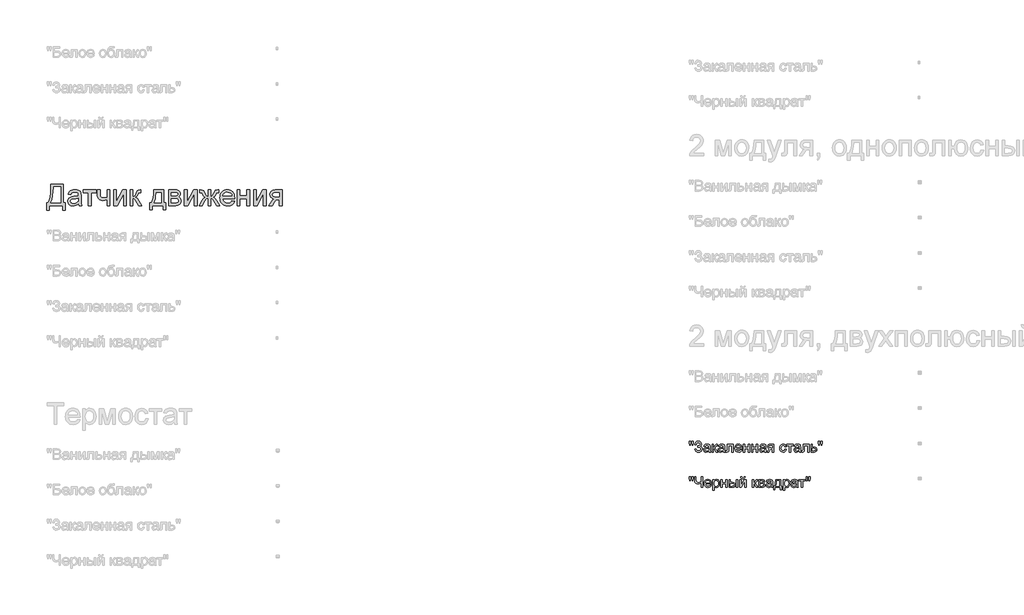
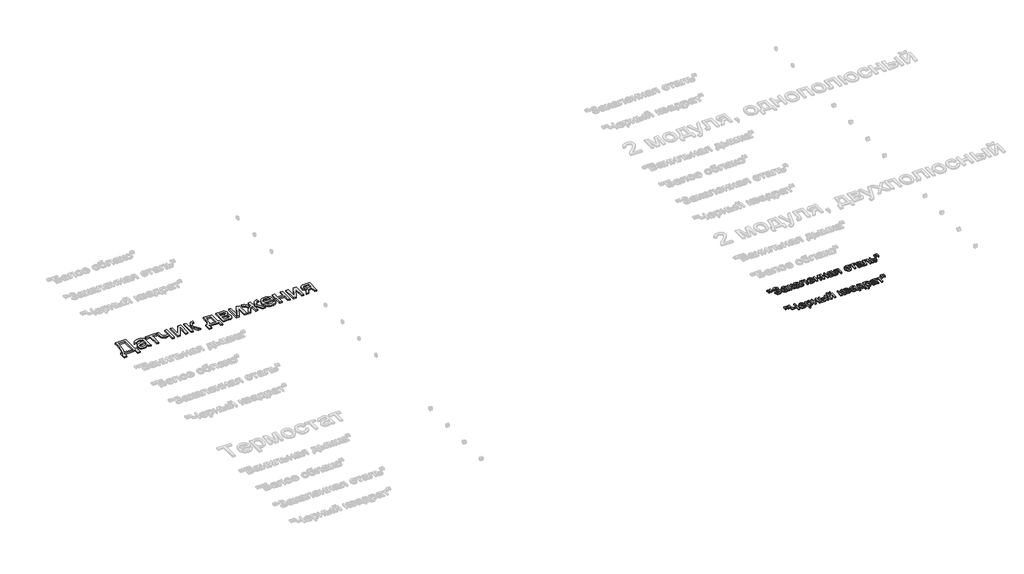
# One storey, part 15 of 168: 3 proxies.
"""IFC4 building model written with IfcOpenShell, lengths in millimetres."""

from ifc_helpers import new_model, si_unit, origin, origin_with_axes, place, context, project, spatial, polyline, outline, extrude, element, save

model = new_model("IFC4")

# Units and contexts
model_context = context("Model", 3, world=origin())
ifc_project = project(units=[si_unit("LENGTHUNIT", "METRE", prefix="MILLI")], contexts=[model_context])

# Site, building, storey
site = spatial("IfcSite", under=ifc_project)
building = spatial("IfcBuilding", under=site)
storey = spatial("IfcBuildingStorey", under=building, Name="Этаж 01", Elevation=0.0)

# Proxies
placement = place(None, origin())
element("IfcBuildingElementProxy", 1, Name="300 мм Arial 2", ObjectType="300 мм Arial 2", at=placement, inside=storey, context=model_context, shape_type="SweptSolid", body=[
    extrude(outline(polyline([(32927.3478389, -49764.4244707), (33106.2856413, -49764.4244707), (33106.2856413, -50028.1222849), (33134.5389786, -50028.1222849), (33134.5389786, -50136.4267443), (33096.8678623, -50136.4267443), (33096.8678623, -50065.7934012), (32903.8033912, -50065.7934012), (32903.8033912, -50136.4267443), (32866.1322749, -50136.4267443), (32866.1322749, -50028.1222849), (32889.6767226, -50028.1222849), (32906.157836, -49993.9506461), (32917.9300598, -49945.8822649), (32924.9933941, -49883.9171413), (32927.3478389, -49808.0552754), (32927.3478389, -49764.4244707)]), holes=[polyline([(33068.614525, -49802.095587), (32965.0189552, -49802.095587), (32965.0189552, -49817.2523252), (32957.3670097, -49920.4800131), (32946.0362442, -49980.1320786), (32927.3478389, -50028.1222849), (33068.614525, -50028.1222849), (33068.614525, -49802.095587)])]), origin_with_axes(), (0.0, 0.0, 1.0), 20.0),
    extrude(outline(polyline([(33318.1856706, -50037.540064), (33300.1870439, -50052.9727137), (33281.6549884, -50063.0710744), (33262.1664397, -50068.6444867), (33241.2983336, -50070.5022907), (33209.8168318, -50066.0325245), (33186.5942809, -50052.6232258), (33172.2744742, -50032.2609573), (33167.5012053, -50006.932282), (33169.3038271, -49991.3156913), (33174.7116924, -49977.1338404), (33183.0534167, -49964.9937345), (33193.6576152, -49955.502379), (33220.0347542, -49943.141544), (33252.629099, -49937.4761613), (33291.1463439, -49931.516473), (33317.9649414, -49924.526715), (33318.1856706, -49916.1390056), (33315.5921025, -49899.3267984), (33307.8113983, -49888.3271267), (33290.4105799, -49880.1601464), (33266.1671564, -49877.4378197), (33243.7263547, -49879.2496385), (33228.0545817, -49884.685095), (33217.3676098, -49894.7374705), (33209.8812112, -49910.4000464), (33172.2100949, -49905.6911569), (33178.7491973, -49885.0897652), (33188.5072673, -49868.9029574), (33202.3948126, -49856.5237282), (33221.3223412, -49847.3450725), (33244.4713158, -49841.6612956), (33271.0231988, -49839.7667034), (33296.4898299, -49841.4405664), (33316.6773544, -49846.4621557), (33331.8984719, -49854.0129336), (33342.4658822, -49863.2743628), (33349.4740343, -49874.7246899), (33354.0173769, -49888.8421615), (33355.8567869, -49921.8043883), (33355.8567869, -49968.6725545), (33357.7697732, -50034.1187614), (33365.2745659, -50065.7934012), (33327.6034496, -50065.7934012), (33318.1856706, -50037.540064)]), holes=[polyline([(33318.1856706, -49962.1978313), (33257.411565, -49973.749326), (33225.0011612, -49979.8561671), (33210.3226696, -49989.788981), (33205.1723216, -50004.2835316), (33207.9774219, -50015.4855383), (33216.3927225, -50024.6641941), (33230.2342826, -50030.7894293), (33249.3181611, -50032.8311744), (33269.5516708, -50030.5778972), (33287.4307358, -50023.8180655), (33301.9252864, -50013.8576605), (33312.005253, -50002.0026632), (33316.4750193, -49989.788981), (33317.9649414, -49972.8664092), (33318.1856706, -49962.1978313)])]), origin_with_axes(), (0.0, 0.0, 1.0), 20.0),
    extrude(outline(polyline([(33388.8190136, -49844.4755929), (33567.7568161, -49844.4755929), (33567.7568161, -49882.1467092), (33497.123473, -49882.1467092), (33497.123473, -50065.7934012), (33459.4523567, -50065.7934012), (33459.4523567, -49882.1467092), (33388.8190136, -49882.1467092), (33388.8190136, -49844.4755929)])), origin_with_axes(), (0.0, 0.0, 1.0), 20.0),
    extrude(outline(polyline([(33586.5923742, -49844.4755929), (33624.2634906, -49844.4755929), (33624.2634906, -49886.9291751), (33627.3169111, -49926.734007), (33632.5132443, -49938.3038958), (33641.9954027, -49948.2918919), (33655.0920017, -49955.1896793), (33671.1316567, -49957.4889418), (33694.1794637, -49954.6378563), (33723.1501709, -49946.0846), (33723.1501709, -49844.4755929), (33760.8212872, -49844.4755929), (33760.8212872, -50065.7934012), (33723.1501709, -50065.7934012), (33723.1501709, -49982.2106119), (33690.9972845, -49991.9226966), (33661.0516901, -49995.1600581), (33638.2705975, -49991.7847408), (33618.3405904, -49981.6587889), (33602.8067732, -49966.6400064), (33593.2142502, -49948.5861975), (33588.2478432, -49928.0399881), (33586.5923742, -49905.5440041), (33586.5923742, -49844.4755929)])), origin_with_axes(), (0.0, 0.0, 1.0), 20.0),
    extrude(outline(polyline([(33817.3279616, -49844.4755929), (33854.9990779, -49844.4755929), (33854.9990779, -50013.2598523), (33947.5581879, -49844.4755929), (33996.2657641, -49844.4755929), (33996.2657641, -50065.7934012), (33958.5946478, -50065.7934012), (33958.5946478, -49898.0392114), (33866.624149, -50065.7934012), (33817.3279616, -50065.7934012), (33817.3279616, -49844.4755929)])), origin_with_axes(), (0.0, 0.0, 1.0), 20.0),
    extrude(outline(polyline([(34052.7724385, -49844.4755929), (34090.4435548, -49844.4755929), (34090.4435548, -49938.6533837), (34105.7658399, -49936.9611265), (34115.6802597, -49931.8843549), (34124.4542453, -49918.6406031), (34136.3552278, -49892.4474051), (34153.535317, -49858.4183205), (34168.6920552, -49847.3450725), (34196.2464167, -49844.4755929), (34203.4569038, -49844.4755929), (34203.4569038, -49882.3674384), (34193.3033607, -49882.1467092), (34174.9092609, -49886.1198347), (34161.9598147, -49910.9150812), (34146.7662883, -49937.7336787), (34125.4659208, -49950.8670659), (34137.4036915, -49956.1691652), (34149.2310977, -49965.5271634), (34172.5548162, -49996.4108569), (34212.8746828, -50065.7934012), (34170.0532186, -50065.7934012), (34130.5426923, -49997.8823849), (34110.6770646, -49969.1508011), (34101.3880442, -49963.9360738), (34090.4435548, -49962.1978313), (34090.4435548, -50065.7934012), (34052.7724385, -50065.7934012), (34052.7724385, -49844.4755929)])), origin_with_axes(), (0.0, 0.0, 1.0), 20.0),
    extrude(outline(polyline([(34387.1035957, -49844.4755929), (34528.3702819, -49844.4755929), (34528.3702819, -50028.1222849), (34556.6236191, -50028.1222849), (34556.6236191, -50127.0089652), (34518.9525028, -50127.0089652), (34518.9525028, -50065.7934012), (34363.5591481, -50065.7934012), (34363.5591481, -50127.0089652), (34325.8880318, -50127.0089652), (34325.8880318, -50028.1222849), (34349.4324794, -50028.1222849), (34366.5481893, -49997.1926061), (34378.5319453, -49956.2749312), (34385.3837474, -49905.3692601), (34387.1035957, -49844.4755929)]), holes=[polyline([(34420.0658225, -49882.1467092), (34416.9756138, -49928.2699143), (34411.2366546, -49967.9735787), (34402.8489451, -50001.2577022), (34391.8124853, -50028.1222849), (34490.6991656, -50028.1222849), (34490.6991656, -49882.1467092), (34420.0658225, -49882.1467092)])]), origin_with_axes(), (0.0, 0.0, 1.0), 20.0),
    extrude(outline(polyline([(34599.003625, -49844.4755929), (34681.9978031, -49844.4755929), (34708.6784448, -49845.7355887), (34727.5048059, -49849.5155762), (34741.355563, -49856.6524869), (34753.1093928, -49867.9832524), (34761.1384173, -49882.7445174), (34763.8147588, -49900.172927), (34762.196078, -49914.2168221), (34757.3400357, -49926.3293368), (34749.2282377, -49936.5656533), (34737.84229, -49944.980954), (34751.7850176, -49952.8076434), (34763.1525712, -49965.3984047), (34770.7125462, -49981.7599564), (34773.2325379, -50000.8990172), (34766.8497853, -50029.612207), (34751.674653, -50049.8273226), (34727.6519587, -50061.8018815), (34694.7265201, -50065.7934012), (34599.003625, -50065.7934012), (34599.003625, -49844.4755929)]), holes=[polyline([(34636.6747413, -50028.1222849), (34682.8807199, -50028.1222849), (34708.0622424, -50026.4208307), (34723.8627741, -50021.316468), (34732.3424541, -50012.0366446), (34735.5614216, -49997.8088085), (34733.9519379, -49988.3818324), (34729.1234867, -49979.6722261), (34721.7106645, -49972.8572122), (34712.3480677, -49969.1140129), (34679.2018999, -49966.9067209), (34636.6747413, -49966.9067209), (34636.6747413, -50028.1222849)]), polyline([(34636.6747413, -49929.2356046), (34673.9043992, -49929.2356046), (34704.6225458, -49927.3226182), (34719.5585548, -49919.6706727), (34724.4973706, -49913.3431024), (34726.1436425, -49905.8383097), (34723.2557688, -49894.5995147), (34714.5921479, -49887.3706335), (34698.938769, -49883.4526903), (34675.0816216, -49882.1467092), (34636.6747413, -49882.1467092), (34636.6747413, -49929.2356046)])]), origin_with_axes(), (0.0, 0.0, 1.0), 20.0),
    extrude(outline(polyline([(34820.3214333, -49844.4755929), (34857.9925496, -49844.4755929), (34857.9925496, -50013.2598523), (34950.5516596, -49844.4755929), (34999.2592357, -49844.4755929), (34999.2592357, -50065.7934012), (34961.5881194, -50065.7934012), (34961.5881194, -49898.0392114), (34869.6176206, -50065.7934012), (34820.3214333, -50065.7934012), (34820.3214333, -49844.4755929)])), origin_with_axes(), (0.0, 0.0, 1.0), 20.0),
    extrude(outline(polyline([(35192.3237068, -49844.4755929), (35192.3237068, -49938.6533837), (35205.6134439, -49936.7128061), (35214.2862619, -49930.8910736), (35235.0715946, -49890.6079951), (35248.039435, -49865.5000489), (35259.8668411, -49851.9803856), (35274.232633, -49846.3517911), (35295.1099362, -49844.4755929), (35310.0459452, -49844.4755929), (35310.0459452, -49882.3674384), (35299.671673, -49882.1467092), (35280.2475036, -49886.0462583), (35266.7830226, -49910.4736228), (35251.1480378, -49937.2554321), (35228.8176007, -49950.8670659), (35241.2106254, -49956.1691652), (35253.4473003, -49965.5271634), (35277.4516005, -49996.4108569), (35319.4637243, -50065.7934012), (35276.2743781, -50065.7934012), (35234.9244418, -49997.3673501), (35223.6212675, -49979.4055117), (35213.8448035, -49968.9300719), (35203.9579749, -49963.8808915), (35192.3237068, -49962.1978313), (35192.3237068, -50065.7934012), (35154.6525905, -50065.7934012), (35154.6525905, -49962.1978313), (35143.1102929, -49963.8441033), (35133.2050702, -49968.7829191), (35123.3550297, -49979.1847825), (35111.978279, -49997.2201973), (35070.6283428, -50065.7934012), (35027.512573, -50065.7934012), (35069.377544, -49996.4108569), (35093.5657852, -49965.5271634), (35105.8668394, -49956.1691652), (35118.3058494, -49950.8670659), (35103.9216634, -49943.6565788), (35094.6142489, -49935.8574805), (35074.3071627, -49897.229871), (35064.3743489, -49884.501154), (35048.1139647, -49881.92598), (35036.930352, -49882.1467092), (35036.930352, -49844.4755929), (35042.5957348, -49844.4755929), (35075.6315379, -49846.8300377), (35092.7748389, -49856.8364279), (35111.978279, -49890.6079951), (35132.5428826, -49930.6335562), (35141.2157006, -49936.6484268), (35154.6525905, -49938.6533837), (35154.6525905, -49844.4755929), (35192.3237068, -49844.4755929)])), origin_with_axes(), (0.0, 0.0, 1.0), 20.0),
    extrude(outline(polyline([(35493.2511788, -49999.8689477), (35530.1865312, -50004.5778372), (35516.8784, -50032.4081101), (35495.6424118, -50053.211837), (35466.9568132, -50066.1796773), (35431.2998509, -50070.5022907), (35407.9255486, -50068.6375889), (35387.0988291, -50063.0434833), (35368.8196925, -50053.719974), (35353.0881387, -50040.6670609), (35340.4375966, -50024.2480276), (35331.4014951, -50004.8261575), (35325.9798342, -49982.4014507), (35324.1726139, -49956.973907), (35325.9982283, -49930.6841399), (35331.4750715, -49907.5121728), (35340.6031435, -49887.4580055), (35353.3824443, -49870.5216382), (35369.0726114, -49857.0663542), (35386.9332822, -49847.4554371), (35406.9644569, -49841.6888868), (35429.1661353, -49839.7667034), (35450.6527431, -49841.6842883), (35470.0838102, -49847.437043), (35487.4593367, -49857.0249675), (35502.7793225, -49870.4480618), (35515.2850111, -49887.3476409), (35524.2176458, -49907.36502), (35529.5772266, -49930.5001989), (35531.3637535, -49956.7531778), (35531.1430243, -49966.9067209), (35361.8437302, -49966.9067209), (35368.3644385, -49995.1048758), (35383.5119797, -50015.8350262), (35405.3733672, -50028.5821374), (35432.0356148, -50032.8311744), (35452.0851836, -50030.8630057), (35468.9709672, -50024.9584997), (35482.6929656, -50014.7497744), (35493.2511788, -49999.8689477)]), holes=[polyline([(35361.8437302, -49929.2356046), (35493.6926372, -49929.2356046), (35488.5974716, -49909.3331886), (35478.6094754, -49895.0961554), (35456.6469203, -49881.8524036), (35429.0189825, -49877.4378197), (35403.6259278, -49880.9602898), (35382.6290629, -49891.5277001), (35368.0333447, -49907.9996164), (35361.8437302, -49929.2356046)])]), origin_with_axes(), (0.0, 0.0, 1.0), 20.0),
    extrude(outline(polyline([(35569.0348699, -49844.4755929), (35606.7059862, -49844.4755929), (35606.7059862, -49929.2356046), (35705.5926665, -49929.2356046), (35705.5926665, -49844.4755929), (35743.2637828, -49844.4755929), (35743.2637828, -50065.7934012), (35705.5926665, -50065.7934012), (35705.5926665, -49966.9067209), (35606.7059862, -49966.9067209), (35606.7059862, -50065.7934012), (35569.0348699, -50065.7934012), (35569.0348699, -49844.4755929)])), origin_with_axes(), (0.0, 0.0, 1.0), 20.0),
    extrude(outline(polyline([(35799.7704572, -49844.4755929), (35837.4415735, -49844.4755929), (35837.4415735, -50013.2598523), (35930.0006835, -49844.4755929), (35978.7082597, -49844.4755929), (35978.7082597, -50065.7934012), (35941.0371434, -50065.7934012), (35941.0371434, -49898.0392114), (35849.0666446, -50065.7934012), (35799.7704572, -50065.7934012), (35799.7704572, -49844.4755929)])), origin_with_axes(), (0.0, 0.0, 1.0), 20.0),
    extrude(outline(polyline([(36204.7349575, -49844.4755929), (36204.7349575, -50065.7934012), (36167.0638412, -50065.7934012), (36167.0638412, -49981.0333895), (36146.5360259, -49981.0333895), (36118.5769942, -49985.8158554), (36107.4117757, -49996.24531), (36092.3102198, -50017.9687418), (36062.291049, -50065.7934012), (36018.7338208, -50065.7934012), (36056.5520899, -50005.3136012), (36073.2539324, -49983.6085635), (36088.6313998, -49973.9700552), (36062.8796602, -49966.0789864), (36044.779866, -49951.0877951), (36034.0745, -49931.148591), (36030.5060446, -49908.4134837), (36035.380481, -49882.6249558), (36050.0037903, -49862.2075051), (36073.8609377, -49848.9085709), (36106.4368884, -49844.4755929), (36204.7349575, -49844.4755929)]), holes=[polyline([(36167.0638412, -49882.1467092), (36117.3997719, -49882.1467092), (36091.7491997, -49884.32641), (36077.1902698, -49890.8655125), (36070.4304381, -49900.3292768), (36068.1771609, -49911.2829632), (36071.4972959, -49925.6395581), (36081.4577009, -49935.5999631), (36099.8609977, -49941.4216957), (36128.5098081, -49943.3622732), (36167.0638412, -49943.3622732), (36167.0638412, -49882.1467092)])]), origin_with_axes(), (0.0, 0.0, 1.0), 20.0),
])
element("IfcBuildingElementProxy", 2, Name="150", ObjectType="150", at=placement, inside=storey, context=model_context, shape_type="SweptSolid", body=[
    extrude(outline(polyline([(41980.1485789, -53464.0640488), (41975.550054, -53434.9645829), (41975.550054, -53409.9118191), (41994.3856121, -53409.9118191), (41994.3856121, -53434.9645829), (41990.2653338, -53464.0640488), (41980.1485789, -53464.0640488)])), origin_with_axes(), (0.0, 0.0, 1.0), 20.0),
    extrude(outline(polyline([(42017.7093306, -53464.0640488), (42013.2211703, -53434.9645829), (42013.2211703, -53409.9118191), (42032.0567284, -53409.9118191), (42032.0567284, -53434.9645829), (42027.6421445, -53464.0640488), (42017.7093306, -53464.0640488)])), origin_with_axes(), (0.0, 0.0, 1.0), 20.0),
    extrude(outline(polyline([(42050.8922866, -53518.2162785), (42069.7278447, -53513.5073889), (42081.2977335, -53533.9064456), (42092.2284273, -53541.5629896), (42106.2217387, -53544.1151709), (42120.398991, -53542.197586), (42131.2193202, -53536.4448313), (42138.0757209, -53527.9789469), (42140.3611878, -53517.9219729), (42137.8641888, -53507.3867522), (42130.3731916, -53499.2519616), (42118.5779752, -53494.0510299), (42103.1683181, -53492.317386), (42093.2722924, -53492.317386), (42093.2722924, -53473.4818278), (42114.591054, -53471.9551176), (42127.6324708, -53464.1560193), (42133.2978535, -53449.900592), (42131.4124583, -53441.0300373), (42125.7562726, -53433.4010845), (42116.8811195, -53428.1449705), (42105.3388219, -53426.3929325), (42086.1169876, -53431.7824037), (42075.117316, -53446.0746192), (42072.0822895, -53459.3551592), (42053.2467313, -53454.6462697), (42059.0983543, -53434.044878), (42069.7002536, -53419.3295982), (42085.0524291, -53410.5004303), (42105.1548809, -53407.5573743), (42124.5468605, -53410.6153934), (42139.4598769, -53419.7894506), (42148.965028, -53433.0561951), (42152.1334117, -53448.3922758), (42147.2037929, -53467.0346959), (42132.4149367, -53480.9498323), (42142.8903765, -53485.773685), (42151.5080123, -53493.9176727), (42157.2745625, -53504.6828196), (42159.196746, -53517.3701499), (42155.508729, -53535.2078281), (42144.444678, -53549.8725241), (42127.2921799, -53559.6811778), (42105.3388219, -53562.9507291), (42086.2365493, -53560.1548259), (42070.7947025, -53551.7671164), (42059.0132816, -53537.7876006), (42050.8922866, -53518.2162785)])), origin_with_axes(), (0.0, 0.0, 1.0), 20.0),
    extrude(outline(polyline([(42253.3745367, -53546.4696157), (42235.1091957, -53559.2351209), (42214.9308682, -53562.9507291), (42199.1901174, -53560.7158459), (42187.5788419, -53554.0111966), (42180.4189386, -53543.8300624), (42178.0323041, -53531.1657247), (42181.6375477, -53516.2665039), (42191.110509, -53505.4507732), (42204.2990786, -53499.2703557), (42220.596251, -53496.4376643), (42253.2641721, -53489.9629412), (42253.3745367, -53485.7690865), (42252.0777527, -53477.3629829), (42248.1874006, -53471.8631471), (42239.4869914, -53467.7796569), (42227.3652797, -53466.4184935), (42208.3089923, -53470.0421312), (42199.222307, -53482.8996069), (42180.3867489, -53480.5451621), (42188.5353351, -53462.1510624), (42204.9428721, -53451.3721199), (42229.7933008, -53447.5829354), (42252.6203786, -53450.9306615), (42265.5146426, -53459.3367651), (42271.2903899, -53472.1206645), (42272.2100949, -53488.6017778), (42272.2100949, -53512.0358609), (42273.1665881, -53544.7589644), (42276.9189844, -53560.5962843), (42258.0834263, -53560.5962843), (42253.3745367, -53546.4696157)]), holes=[polyline([(42253.3745367, -53508.7984994), (42222.9874839, -53514.5742467), (42206.782282, -53517.6276673), (42199.4430362, -53522.5940742), (42196.8678623, -53529.8413495), (42202.4780627, -53540.0316808), (42218.940782, -53544.1151709), (42237.9970693, -53539.6086165), (42250.284328, -53528.7009153), (42253.2641721, -53514.1327883), (42253.3745367, -53508.7984994)])]), origin_with_axes(), (0.0, 0.0, 1.0), 20.0),
    extrude(outline(polyline([(42298.1089873, -53449.9373802), (42316.9445455, -53449.9373802), (42316.9445455, -53497.0262755), (42329.5628979, -53493.6417612), (42339.900382, -53473.9232862), (42348.4904266, -53456.908744), (42356.0687957, -53451.3721199), (42369.8459764, -53449.9373802), (42373.4512199, -53449.9373802), (42373.4512199, -53468.8833029), (42368.3744484, -53468.7729383), (42359.1773985, -53470.7595011), (42352.7026754, -53483.1571243), (42345.1059122, -53496.566423), (42334.4557285, -53503.1331167), (42346.3383169, -53510.4631654), (42358.0001762, -53525.9050122), (42378.1601095, -53560.5962843), (42356.7493774, -53560.5962843), (42336.9941142, -53526.6407761), (42327.0613004, -53512.2749842), (42316.9445455, -53508.7984994), (42316.9445455, -53560.5962843), (42298.1089873, -53560.5962843), (42298.1089873, -53449.9373802)])), origin_with_axes(), (0.0, 0.0, 1.0), 20.0),
    extrude(outline(polyline([(42460.5656764, -53546.4696157), (42442.3003353, -53559.2351209), (42422.1220079, -53562.9507291), (42406.381257, -53560.7158459), (42394.7699816, -53554.0111966), (42387.6100782, -53543.8300624), (42385.2234438, -53531.1657247), (42388.8286873, -53516.2665039), (42398.3016487, -53505.4507732), (42411.4902183, -53499.2703557), (42427.7873906, -53496.4376643), (42460.4553118, -53489.9629412), (42460.5656764, -53485.7690865), (42459.2688924, -53477.3629829), (42455.3785403, -53471.8631471), (42446.6781311, -53467.7796569), (42434.5564193, -53466.4184935), (42415.500132, -53470.0421312), (42406.4134467, -53482.8996069), (42387.5778886, -53480.5451621), (42395.7264748, -53462.1510624), (42412.1340117, -53451.3721199), (42436.9844405, -53447.5829354), (42459.8115183, -53450.9306615), (42472.7057822, -53459.3367651), (42478.4815296, -53472.1206645), (42479.4012346, -53488.6017778), (42479.4012346, -53512.0358609), (42480.3577277, -53544.7589644), (42484.1101241, -53560.5962843), (42465.2745659, -53560.5962843), (42460.5656764, -53546.4696157)]), holes=[polyline([(42460.5656764, -53508.7984994), (42430.1786236, -53514.5742467), (42413.9734217, -53517.6276673), (42406.6341759, -53522.5940742), (42404.0590019, -53529.8413495), (42409.6692024, -53540.0316808), (42426.1319217, -53544.1151709), (42445.188209, -53539.6086165), (42457.4754676, -53528.7009153), (42460.4553118, -53514.1327883), (42460.5656764, -53508.7984994)])]), origin_with_axes(), (0.0, 0.0, 1.0), 20.0),
    extrude(outline(polyline([(42514.7179061, -53449.9373802), (42599.4779178, -53449.9373802), (42599.4779178, -53560.4859197), (42580.6423596, -53560.4859197), (42580.6423596, -53468.7729383), (42533.5534643, -53468.7729383), (42533.5534643, -53521.5640046), (42532.2842714, -53545.9177927), (42525.3129076, -53556.2000945), (42508.8317942, -53560.5962843), (42493.5279032, -53559.6397911), (42493.5279032, -53541.7607261), (42501.9524009, -53541.7607261), (42510.4688691, -53540.6018979), (42513.8717775, -53536.9230779), (42514.7179061, -53520.4971468), (42514.7179061, -53449.9373802)])), origin_with_axes(), (0.0, 0.0, 1.0), 20.0),
    extrude(outline(polyline([(42705.2072032, -53527.6340575), (42723.6748794, -53529.9885023), (42717.0208138, -53543.9036388), (42706.4028197, -53554.3055022), (42692.0600204, -53560.7894223), (42674.2315392, -53562.9507291), (42652.1310283, -53559.2213253), (42635.1256831, -53548.0331142), (42624.2823613, -53530.1126625), (42620.6679207, -53506.1865372), (42624.3191495, -53481.4556701), (42635.2728359, -53462.9604028), (42652.0482549, -53451.4273022), (42673.1646814, -53447.5829354), (42693.6235189, -53451.4181052), (42709.971275, -53462.9236146), (42720.6904367, -53481.3820937), (42724.2634906, -53506.0761726), (42724.153126, -53511.1529441), (42639.5034789, -53511.1529441), (42642.763833, -53525.2520216), (42650.3376036, -53535.6170968), (42661.2682974, -53541.9906524), (42674.5994212, -53544.1151709), (42693.0670974, -53540.1788336), (42705.2072032, -53527.6340575)]), holes=[polyline([(42639.5034789, -53492.317386), (42705.4279324, -53492.317386), (42702.8803496, -53482.366178), (42697.8863515, -53475.2476614), (42686.9050739, -53468.6257855), (42673.091105, -53466.4184935), (42660.3945777, -53468.1797286), (42649.8961452, -53473.4634337), (42642.5982861, -53481.6993919), (42639.5034789, -53492.317386)])]), origin_with_axes(), (0.0, 0.0, 1.0), 20.0),
    extrude(outline(polyline([(42743.0990487, -53449.9373802), (42761.9346069, -53449.9373802), (42761.9346069, -53492.317386), (42811.377947, -53492.317386), (42811.377947, -53449.9373802), (42830.2135052, -53449.9373802), (42830.2135052, -53560.5962843), (42811.377947, -53560.5962843), (42811.377947, -53511.1529441), (42761.9346069, -53511.1529441), (42761.9346069, -53560.5962843), (42743.0990487, -53560.5962843), (42743.0990487, -53449.9373802)])), origin_with_axes(), (0.0, 0.0, 1.0), 20.0),
    extrude(outline(polyline([(42858.4668424, -53449.9373802), (42877.3024005, -53449.9373802), (42877.3024005, -53492.317386), (42926.7457407, -53492.317386), (42926.7457407, -53449.9373802), (42945.5812988, -53449.9373802), (42945.5812988, -53560.5962843), (42926.7457407, -53560.5962843), (42926.7457407, -53511.1529441), (42877.3024005, -53511.1529441), (42877.3024005, -53560.5962843), (42858.4668424, -53560.5962843), (42858.4668424, -53449.9373802)])), origin_with_axes(), (0.0, 0.0, 1.0), 20.0),
    extrude(outline(polyline([(43044.4679792, -53546.4696157), (43026.2026381, -53559.2351209), (43006.0243107, -53562.9507291), (42990.2835598, -53560.7158459), (42978.6722843, -53554.0111966), (42971.512381, -53543.8300624), (42969.1257465, -53531.1657247), (42972.7309901, -53516.2665039), (42982.2039515, -53505.4507732), (42995.392521, -53499.2703557), (43011.6896934, -53496.4376643), (43044.3576146, -53489.9629412), (43044.4679792, -53485.7690865), (43043.1711951, -53477.3629829), (43039.280843, -53471.8631471), (43030.5804338, -53467.7796569), (43018.4587221, -53466.4184935), (42999.4024347, -53470.0421312), (42990.3157495, -53482.8996069), (42971.4801913, -53480.5451621), (42979.6287775, -53462.1510624), (42996.0363145, -53451.3721199), (43020.8867433, -53447.5829354), (43043.7138211, -53450.9306615), (43056.608085, -53459.3367651), (43062.3838323, -53472.1206645), (43063.3035373, -53488.6017778), (43063.3035373, -53512.0358609), (43064.2600305, -53544.7589644), (43068.0124268, -53560.5962843), (43049.1768687, -53560.5962843), (43044.4679792, -53546.4696157)]), holes=[polyline([(43044.4679792, -53508.7984994), (43014.0809264, -53514.5742467), (42997.8757245, -53517.6276673), (42990.5364787, -53522.5940742), (42987.9613047, -53529.8413495), (42993.5715051, -53540.0316808), (43010.0342244, -53544.1151709), (43029.0905118, -53539.6086165), (43041.3777704, -53528.7009153), (43044.3576146, -53514.1327883), (43044.4679792, -53508.7984994)])]), origin_with_axes(), (0.0, 0.0, 1.0), 20.0),
    extrude(outline(polyline([(43173.9624415, -53449.9373802), (43173.9624415, -53560.5962843), (43155.1268833, -53560.5962843), (43155.1268833, -53518.2162785), (43144.8629756, -53518.2162785), (43130.8834598, -53520.6075114), (43117.7500726, -53536.6839546), (43102.7404872, -53560.5962843), (43080.9618731, -53560.5962843), (43099.8710076, -53530.3563843), (43108.2219289, -53519.5038654), (43115.9106626, -53514.6846113), (43103.0347928, -53510.7390769), (43093.9848957, -53503.2434813), (43088.6322127, -53493.2738792), (43086.847985, -53481.9063255), (43089.2852032, -53469.0120616), (43096.5968579, -53458.8033362), (43108.5254316, -53452.1538692), (43124.8134069, -53449.9373802), (43173.9624415, -53449.9373802)]), holes=[polyline([(43155.1268833, -53468.7729383), (43130.2948486, -53468.7729383), (43117.4695626, -53469.8627887), (43110.1900976, -53473.1323399), (43105.6835431, -53483.3410653), (43107.3436107, -53490.5193627), (43112.3238132, -53495.4995653), (43135.8498668, -53499.3807203), (43155.1268833, -53499.3807203), (43155.1268833, -53468.7729383)])]), origin_with_axes(), (0.0, 0.0, 1.0), 20.0),
    extrude(outline(polyline([(43331.710241, -53520.5707232), (43350.5457991, -53522.925168), (43345.2942837, -53539.6775943), (43335.4258491, -53552.3373335), (43321.8693976, -53560.2973802), (43305.5538311, -53562.9507291), (43285.518058, -53559.2489165), (43269.8508835, -53548.1434788), (43259.7387272, -53530.1218595), (43256.3680084, -53505.6715024), (43257.8073467, -53488.909879), (43262.1253616, -53474.3831387), (43269.391031, -53462.6523016), (43279.6733328, -53454.2783877), (43291.974387, -53449.2567985), (43305.2963137, -53447.5829354), (43321.2118085, -53449.8821979), (43333.9359271, -53456.7799853), (43343.0639991, -53467.9084156), (43348.1913544, -53482.8996069), (43329.3557962, -53485.2540517), (43320.6185988, -53471.1457772), (43305.4434665, -53466.4184935), (43293.271171, -53468.7453472), (43283.6096701, -53475.725908), (43277.3050924, -53487.7372552), (43275.2035665, -53505.1564676), (43277.2591072, -53522.8102049), (43283.4257291, -53534.8629387), (43292.9124861, -53541.8021129), (43304.9284317, -53544.1151709), (43314.6819031, -53542.6712341), (43322.678738, -53538.3394236), (43328.4958721, -53531.0093748), (43331.710241, -53520.5707232)])), origin_with_axes(), (0.0, 0.0, 1.0), 20.0),
    extrude(outline(polyline([(43357.6091334, -53449.9373802), (43447.0780347, -53449.9373802), (43447.0780347, -53468.7729383), (43411.7613631, -53468.7729383), (43411.7613631, -53560.5962843), (43392.925805, -53560.5962843), (43392.925805, -53468.7729383), (43357.6091334, -53468.7729383), (43357.6091334, -53449.9373802)])), origin_with_axes(), (0.0, 0.0, 1.0), 20.0),
    extrude(outline(polyline([(43534.1924911, -53546.4696157), (43515.9271501, -53559.2351209), (43495.7488226, -53562.9507291), (43480.0080718, -53560.7158459), (43468.3967963, -53554.0111966), (43461.236893, -53543.8300624), (43458.8502585, -53531.1657247), (43462.4555021, -53516.2665039), (43471.9284634, -53505.4507732), (43485.117033, -53499.2703557), (43501.4142054, -53496.4376643), (43534.0821265, -53489.9629412), (43534.1924911, -53485.7690865), (43532.8957071, -53477.3629829), (43529.005355, -53471.8631471), (43520.3049458, -53467.7796569), (43508.1832341, -53466.4184935), (43489.1269467, -53470.0421312), (43480.0402614, -53482.8996069), (43461.2047033, -53480.5451621), (43469.3532895, -53462.1510624), (43485.7608265, -53451.3721199), (43510.6112552, -53447.5829354), (43533.438333, -53450.9306615), (43546.332597, -53459.3367651), (43552.1083443, -53472.1206645), (43553.0280493, -53488.6017778), (43553.0280493, -53512.0358609), (43553.9845425, -53544.7589644), (43557.7369388, -53560.5962843), (43538.9013807, -53560.5962843), (43534.1924911, -53546.4696157)]), holes=[polyline([(43534.1924911, -53508.7984994), (43503.8054383, -53514.5742467), (43487.6002364, -53517.6276673), (43480.2609906, -53522.5940742), (43477.6858167, -53529.8413495), (43483.2960171, -53540.0316808), (43499.7587364, -53544.1151709), (43518.8150237, -53539.6086165), (43531.1022824, -53528.7009153), (43534.0821265, -53514.1327883), (43534.1924911, -53508.7984994)])]), origin_with_axes(), (0.0, 0.0, 1.0), 20.0),
    extrude(outline(polyline([(43588.3447208, -53449.9373802), (43673.1047325, -53449.9373802), (43673.1047325, -53560.4859197), (43654.2691744, -53560.4859197), (43654.2691744, -53468.7729383), (43607.180279, -53468.7729383), (43607.180279, -53521.5640046), (43605.9110861, -53545.9177927), (43598.9397223, -53556.2000945), (43582.4586089, -53560.5962843), (43567.1547179, -53559.6397911), (43567.1547179, -53541.7607261), (43575.5792156, -53541.7607261), (43584.0956838, -53540.6018979), (43587.4985922, -53536.9230779), (43588.3447208, -53520.4971468), (43588.3447208, -53449.9373802)])), origin_with_axes(), (0.0, 0.0, 1.0), 20.0),
    extrude(outline(polyline([(43701.3580697, -53449.9373802), (43720.1936279, -53449.9373802), (43720.1936279, -53489.9629412), (43741.8986656, -53489.9629412), (43760.7158297, -53492.3219845), (43774.6401632, -53499.3991144), (43783.2486019, -53510.6241138), (43786.1180814, -53525.4267656), (43783.6762647, -53538.9050422), (43776.3508145, -53550.2771943), (43763.6542871, -53558.0165118), (43745.099239, -53560.5962843), (43701.3580697, -53560.5962843), (43701.3580697, -53449.9373802)]), holes=[polyline([(43720.1936279, -53541.7607261), (43737.7783873, -53541.7607261), (43760.4951005, -53537.8059947), (43765.5856676, -53532.7430187), (43767.2825233, -53525.4635538), (43762.260934, -53513.8752709), (43754.1905228, -53510.0676923), (43740.0224674, -53508.7984994), (43720.1936279, -53508.7984994), (43720.1936279, -53541.7607261)])]), origin_with_axes(), (0.0, 0.0, 1.0), 20.0),
    extrude(outline(polyline([(43809.5521645, -53464.0640488), (43804.9536396, -53434.9645829), (43804.9536396, -53409.9118191), (43823.7891977, -53409.9118191), (43823.7891977, -53434.9645829), (43819.6689194, -53464.0640488), (43809.5521645, -53464.0640488)])), origin_with_axes(), (0.0, 0.0, 1.0), 20.0),
    extrude(outline(polyline([(43847.1129162, -53464.0640488), (43842.6247559, -53434.9645829), (43842.6247559, -53409.9118191), (43861.460314, -53409.9118191), (43861.460314, -53434.9645829), (43857.0457301, -53464.0640488), (43847.1129162, -53464.0640488)])), origin_with_axes(), (0.0, 0.0, 1.0), 20.0),
])
element("IfcBuildingElementProxy", 3, Name="150", ObjectType="150", at=placement, inside=storey, context=model_context, shape_type="SweptSolid", body=[
    extrude(outline(polyline([(41980.1485789, -53964.0640488), (41975.550054, -53934.9645829), (41975.550054, -53909.9118191), (41994.3856121, -53909.9118191), (41994.3856121, -53934.9645829), (41990.2653338, -53964.0640488), (41980.1485789, -53964.0640488)])), origin_with_axes(), (0.0, 0.0, 1.0), 20.0),
    extrude(outline(polyline([(42017.7093306, -53964.0640488), (42013.2211703, -53934.9645829), (42013.2211703, -53909.9118191), (42032.0567284, -53909.9118191), (42032.0567284, -53934.9645829), (42027.6421445, -53964.0640488), (42017.7093306, -53964.0640488)])), origin_with_axes(), (0.0, 0.0, 1.0), 20.0),
    extrude(outline(polyline([(42163.9056355, -54060.5962843), (42145.0700773, -54060.5962843), (42145.0700773, -54000.2636371), (42120.0908899, -54008.4306174), (42098.4226404, -54011.1529441), (42083.7395502, -54009.2905415), (42070.886673, -54003.7033337), (42060.926268, -53995.2512449), (42054.9205944, -53984.7941992), (42050.8922866, -53954.7934225), (42050.8922866, -53909.9118191), (42069.7278447, -53909.9118191), (42069.7278447, -53952.2550367), (42071.990319, -53972.6219037), (42078.7777418, -53984.57347), (42088.7381468, -53990.381407), (42100.5195677, -53992.317386), (42122.2521966, -53989.9813353), (42145.0700773, -53982.9731833), (42145.0700773, -53909.9118191), (42163.9056355, -53909.9118191), (42163.9056355, -54060.5962843)])), origin_with_axes(), (0.0, 0.0, 1.0), 20.0),
    extrude(outline(polyline([(42271.9893657, -54027.6340575), (42290.4570418, -54029.9885023), (42283.8029762, -54043.9036388), (42273.1849822, -54054.3055022), (42258.8421829, -54060.7894223), (42241.0137017, -54062.9507291), (42218.9131908, -54059.2213253), (42201.9078456, -54048.0331142), (42191.0645238, -54030.1126625), (42187.4500832, -54006.1865372), (42191.101312, -53981.4556701), (42202.0549984, -53962.9604028), (42218.8304174, -53951.4273022), (42239.9468439, -53947.5829354), (42260.4056814, -53951.4181052), (42276.7534375, -53962.9236146), (42287.4725992, -53981.3820937), (42291.045653, -54006.0761726), (42290.9352884, -54011.1529441), (42206.2856413, -54011.1529441), (42209.5459955, -54025.2520216), (42217.1197661, -54035.6170968), (42228.0504599, -54041.9906524), (42241.3815837, -54044.1151709), (42259.8492598, -54040.1788336), (42271.9893657, -54027.6340575)]), holes=[polyline([(42206.2856413, -53992.317386), (42272.2100949, -53992.317386), (42269.6625121, -53982.366178), (42264.668514, -53975.2476614), (42253.6872364, -53968.6257855), (42239.8732675, -53966.4184935), (42227.1767401, -53968.1797286), (42216.6783077, -53973.4634337), (42209.3804486, -53981.6993919), (42206.2856413, -53992.317386)])]), origin_with_axes(), (0.0, 0.0, 1.0), 20.0),
    extrude(outline(polyline([(42309.8812112, -54102.9762901), (42309.8812112, -53949.9373802), (42328.7167693, -53949.9373802), (42328.7167693, -53968.4050563), (42341.739792, -53952.7884656), (42359.3245513, -53947.5829354), (42372.0624654, -53949.4039513), (42383.2000928, -53954.8669989), (42392.268384, -53963.6409845), (42398.7982894, -53975.3948142), (42404.0590019, -54004.4207036), (42402.5736784, -54020.5293365), (42398.1177077, -54034.9365151), (42390.8336442, -54046.9110741), (42380.8640422, -54055.7218479), (42369.2527667, -54061.1435088), (42357.043683, -54062.9507291), (42340.6545401, -54058.1130808), (42328.7167693, -54045.8810045), (42328.7167693, -54102.9762901), (42309.8812112, -54102.9762901)]), holes=[polyline([(42328.7167693, -54006.149749), (42330.7539159, -54023.0355326), (42336.8653555, -54034.8445446), (42345.8830629, -54041.7975143), (42356.6390128, -54044.1151709), (42367.5697066, -54041.7147409), (42376.8173402, -54034.5134508), (42383.1219179, -54022.2721775), (42385.2234438, -54004.7517974), (42383.1725017, -53987.9579844), (42377.0196753, -53975.9834254), (42368.0157635, -53968.8097265), (42357.411565, -53966.4184935), (42346.7659797, -53968.9614778), (42337.4171785, -53976.5904307), (42330.8918716, -53989.0662289), (42328.7167693, -54006.149749)])]), origin_with_axes(), (0.0, 0.0, 1.0), 20.0),
    extrude(outline(polyline([(42425.2490049, -53949.9373802), (42444.084563, -53949.9373802), (42444.084563, -53992.317386), (42493.5279032, -53992.317386), (42493.5279032, -53949.9373802), (42512.3634613, -53949.9373802), (42512.3634613, -54060.5962843), (42493.5279032, -54060.5962843), (42493.5279032, -54011.1529441), (42444.084563, -54011.1529441), (42444.084563, -54060.5962843), (42425.2490049, -54060.5962843), (42425.2490049, -53949.9373802)])), origin_with_axes(), (0.0, 0.0, 1.0), 20.0),
    extrude(outline(polyline([(42644.2123684, -53949.9373802), (42663.0479266, -53949.9373802), (42663.0479266, -54060.5962843), (42644.2123684, -54060.5962843), (42644.2123684, -53949.9373802)])), origin_with_axes(), (0.0, 0.0, 1.0), 20.0),
    extrude(outline(polyline([(42540.6167986, -53949.9373802), (42559.4523567, -53949.9373802), (42559.4523567, -53989.9629412), (42582.739287, -53989.9629412), (42602.8670307, -53992.3219845), (42617.780047, -53999.3991144), (42627.0092866, -54010.6241138), (42630.0856998, -54025.4267656), (42627.5059273, -54038.9050422), (42619.7666098, -54050.2771943), (42606.3619096, -54058.0165118), (42586.785989, -54060.5962843), (42540.6167986, -54060.5962843), (42540.6167986, -53949.9373802)]), holes=[polyline([(42559.4523567, -54041.7607261), (42578.8029497, -54041.7607261), (42603.7821371, -54037.8059947), (42609.3831405, -54032.7430187), (42611.2501416, -54025.4635538), (42605.7135176, -54013.8752709), (42596.8337659, -54010.0676923), (42581.267759, -54008.7984994), (42559.4523567, -54008.7984994), (42559.4523567, -54041.7607261)])]), origin_with_axes(), (0.0, 0.0, 1.0), 20.0),
    extrude(outline(polyline([(42691.3012638, -53949.9373802), (42710.1368219, -53949.9373802), (42710.1368219, -54034.3295098), (42756.4163769, -53949.9373802), (42780.770165, -53949.9373802), (42780.770165, -54060.5962843), (42761.9346069, -54060.5962843), (42761.9346069, -53976.7191894), (42715.9493575, -54060.5962843), (42691.3012638, -54060.5962843), (42691.3012638, -53949.9373802)])), origin_with_axes(), (0.0, 0.0, 1.0), 20.0),
    extrude(outline(polyline([(42752.5168278, -53909.9118191), (42766.6434964, -53909.9118191), (42763.6038714, -53921.97375), (42757.5016288, -53930.8626987), (42748.6126801, -53936.3395419), (42737.2129368, -53938.1651563), (42724.8429047, -53936.3533375), (42715.2503817, -53930.917881), (42708.6928851, -53922.0427279), (42705.4279324, -53909.9118191), (42719.554601, -53909.9118191), (42724.8521017, -53920.5252146), (42735.5206796, -53924.0384877), (42747.219327, -53920.6355792), (42752.5168278, -53909.9118191)])), origin_with_axes(), (0.0, 0.0, 1.0), 20.0),
    extrude(outline(polyline([(42867.8846215, -53949.9373802), (42886.7201796, -53949.9373802), (42886.7201796, -53997.0262755), (42899.3385321, -53993.6417612), (42909.6760161, -53973.9232862), (42918.2660607, -53956.908744), (42925.8444298, -53951.3721199), (42939.6216105, -53949.9373802), (42943.2268541, -53949.9373802), (42943.2268541, -53968.8833029), (42938.1500825, -53968.7729383), (42928.9530327, -53970.7595011), (42922.4783096, -53983.1571243), (42914.8815464, -53996.566423), (42904.2313626, -54003.1331167), (42916.113951, -54010.4631654), (42927.7758103, -54025.9050122), (42947.9357436, -54060.5962843), (42926.5250115, -54060.5962843), (42906.7697484, -54026.6407761), (42896.8369345, -54012.2749842), (42886.7201796, -54008.7984994), (42886.7201796, -54060.5962843), (42867.8846215, -54060.5962843), (42867.8846215, -53949.9373802)])), origin_with_axes(), (0.0, 0.0, 1.0), 20.0),
    extrude(outline(polyline([(42959.7079675, -53949.9373802), (43001.2050565, -53949.9373802), (43023.9585579, -53952.4573718), (43036.7608514, -53961.6912099), (43042.1135344, -53977.7860472), (43038.8761728, -53990.8642521), (43029.1273, -54000.1900607), (43041.7824406, -54010.3987861), (43046.8224239, -54028.1490923), (43043.6310476, -54042.5056872), (43036.0434815, -54052.613245), (43024.0321343, -54058.6005245), (43007.569415, -54060.5962843), (42959.7079675, -54060.5962843), (42959.7079675, -53949.9373802)]), holes=[polyline([(42978.5435256, -53992.317386), (42997.1583546, -53992.317386), (43012.5174279, -53991.3608928), (43019.9854324, -53987.5349201), (43023.2779762, -53980.6187385), (43021.8340394, -53974.9993411), (43017.5022289, -53971.3849005), (42997.7469658, -53968.7729383), (42978.5435256, -53968.7729383), (42978.5435256, -53992.317386)]), polyline([(42978.5435256, -54041.7607261), (43001.6465149, -54041.7607261), (43022.137542, -54038.3578177), (43026.377382, -54033.717906), (43027.9868658, -54026.6039879), (43024.7678983, -54017.5356968), (43016.3801888, -54012.2565901), (42999.8071049, -54011.1529441), (42978.5435256, -54011.1529441), (42978.5435256, -54041.7607261)])]), origin_with_axes(), (0.0, 0.0, 1.0), 20.0),
    extrude(outline(polyline([(43141.0002147, -54046.4696157), (43122.7348736, -54059.2351209), (43102.5565462, -54062.9507291), (43086.8157953, -54060.7158459), (43075.2045198, -54054.0111966), (43068.0446165, -54043.8300624), (43065.6579821, -54031.1657247), (43069.2632256, -54016.2665039), (43078.736187, -54005.4507732), (43091.9247565, -53999.2703557), (43108.2219289, -53996.4376643), (43140.8898501, -53989.9629412), (43141.0002147, -53985.7690865), (43139.7034307, -53977.3629829), (43135.8130786, -53971.8631471), (43127.1126694, -53967.7796569), (43114.9909576, -53966.4184935), (43095.9346703, -53970.0421312), (43086.847985, -53982.8996069), (43068.0124268, -53980.5451621), (43076.161013, -53962.1510624), (43092.56855, -53951.3721199), (43117.4189788, -53947.5829354), (43140.2460566, -53950.9306615), (43153.1403205, -53959.3367651), (43158.9160679, -53972.1206645), (43159.8357728, -53988.6017778), (43159.8357728, -54012.0358609), (43160.792266, -54044.7589644), (43164.5446624, -54060.5962843), (43145.7091042, -54060.5962843), (43141.0002147, -54046.4696157)]), holes=[polyline([(43141.0002147, -54008.7984994), (43110.6131619, -54014.5742467), (43094.40796, -54017.6276673), (43087.0687142, -54022.5940742), (43084.4935402, -54029.8413495), (43090.1037407, -54040.0316808), (43106.5664599, -54044.1151709), (43125.6227473, -54039.6086165), (43137.9100059, -54028.7009153), (43140.8898501, -54014.1327883), (43141.0002147, -54008.7984994)])]), origin_with_axes(), (0.0, 0.0, 1.0), 20.0),
    extrude(outline(polyline([(43202.2157787, -53949.9373802), (43272.8491218, -53949.9373802), (43272.8491218, -54041.7607261), (43286.9757904, -54041.7607261), (43286.9757904, -54091.2040663), (43268.1402322, -54091.2040663), (43268.1402322, -54060.5962843), (43190.4435548, -54060.5962843), (43190.4435548, -54091.2040663), (43171.6079967, -54091.2040663), (43171.6079967, -54041.7607261), (43183.3802205, -54041.7607261), (43191.9380754, -54026.2958868), (43197.9299534, -54005.8370493), (43202.2157787, -53949.9373802)]), holes=[polyline([(43218.6968921, -53968.7729383), (43214.2823081, -54011.686373), (43204.5702235, -54041.7607261), (43254.0135636, -54041.7607261), (43254.0135636, -53968.7729383), (43218.6968921, -53968.7729383)])]), origin_with_axes(), (0.0, 0.0, 1.0), 20.0),
    extrude(outline(polyline([(43308.1657933, -54102.9762901), (43308.1657933, -53949.9373802), (43327.0013514, -53949.9373802), (43327.0013514, -53968.4050563), (43340.0243741, -53952.7884656), (43357.6091334, -53947.5829354), (43370.3470475, -53949.4039513), (43381.4846749, -53954.8669989), (43390.5529661, -53963.6409845), (43397.0828715, -53975.3948142), (43402.3435841, -54004.4207036), (43400.8582605, -54020.5293365), (43396.4022898, -54034.9365151), (43389.1182263, -54046.9110741), (43379.1486243, -54055.7218479), (43367.5373488, -54061.1435088), (43355.3282651, -54062.9507291), (43338.9391222, -54058.1130808), (43327.0013514, -54045.8810045), (43327.0013514, -54102.9762901), (43308.1657933, -54102.9762901)]), holes=[polyline([(43327.0013514, -54006.149749), (43329.038498, -54023.0355326), (43335.1499376, -54034.8445446), (43344.167645, -54041.7975143), (43354.9235949, -54044.1151709), (43365.8542887, -54041.7147409), (43375.1019223, -54034.5134508), (43381.4065, -54022.2721775), (43383.5080259, -54004.7517974), (43381.4570838, -53987.9579844), (43375.3042574, -53975.9834254), (43366.3003456, -53968.8097265), (43355.6961471, -53966.4184935), (43345.0505618, -53968.9614778), (43335.7017606, -53976.5904307), (43329.1764537, -53989.0662289), (43327.0013514, -54006.149749)])]), origin_with_axes(), (0.0, 0.0, 1.0), 20.0),
    extrude(outline(polyline([(43494.1669301, -54046.4696157), (43475.901589, -54059.2351209), (43455.7232616, -54062.9507291), (43439.9825107, -54060.7158459), (43428.3712352, -54054.0111966), (43421.2113319, -54043.8300624), (43418.8246974, -54031.1657247), (43422.429941, -54016.2665039), (43431.9029024, -54005.4507732), (43445.0914719, -53999.2703557), (43461.3886443, -53996.4376643), (43494.0565655, -53989.9629412), (43494.1669301, -53985.7690865), (43492.870146, -53977.3629829), (43488.9797939, -53971.8631471), (43480.2793847, -53967.7796569), (43468.157673, -53966.4184935), (43449.1013856, -53970.0421312), (43440.0147004, -53982.8996069), (43421.1791422, -53980.5451621), (43429.3277284, -53962.1510624), (43445.7352654, -53951.3721199), (43470.5856942, -53947.5829354), (43493.412772, -53950.9306615), (43506.3070359, -53959.3367651), (43512.0827832, -53972.1206645), (43513.0024882, -53988.6017778), (43513.0024882, -54012.0358609), (43513.9589814, -54044.7589644), (43517.7113777, -54060.5962843), (43498.8758196, -54060.5962843), (43494.1669301, -54046.4696157)]), holes=[polyline([(43494.1669301, -54008.7984994), (43463.7798773, -54014.5742467), (43447.5746754, -54017.6276673), (43440.2354296, -54022.5940742), (43437.6602556, -54029.8413495), (43443.270456, -54040.0316808), (43459.7331753, -54044.1151709), (43478.7894627, -54039.6086165), (43491.0767213, -54028.7009153), (43494.0565655, -54014.1327883), (43494.1669301, -54008.7984994)])]), origin_with_axes(), (0.0, 0.0, 1.0), 20.0),
    extrude(outline(polyline([(43529.4836016, -53949.9373802), (43618.9525028, -53949.9373802), (43618.9525028, -53968.7729383), (43583.6358313, -53968.7729383), (43583.6358313, -54060.5962843), (43564.8002731, -54060.5962843), (43564.8002731, -53968.7729383), (43529.4836016, -53968.7729383), (43529.4836016, -53949.9373802)])), origin_with_axes(), (0.0, 0.0, 1.0), 20.0),
    extrude(outline(polyline([(43635.3232516, -53964.0640488), (43630.7247267, -53934.9645829), (43630.7247267, -53909.9118191), (43649.5602848, -53909.9118191), (43649.5602848, -53934.9645829), (43645.4400065, -53964.0640488), (43635.3232516, -53964.0640488)])), origin_with_axes(), (0.0, 0.0, 1.0), 20.0),
    extrude(outline(polyline([(43672.8840033, -53964.0640488), (43668.395843, -53934.9645829), (43668.395843, -53909.9118191), (43687.2314011, -53909.9118191), (43687.2314011, -53934.9645829), (43682.8168172, -53964.0640488), (43672.8840033, -53964.0640488)])), origin_with_axes(), (0.0, 0.0, 1.0), 20.0),
])

save(model, "model.ifc")
